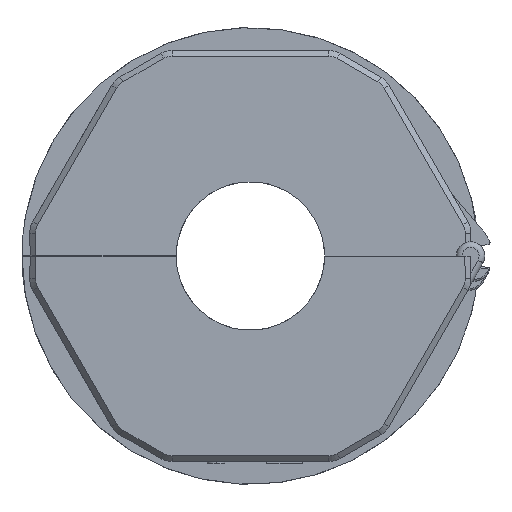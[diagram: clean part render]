
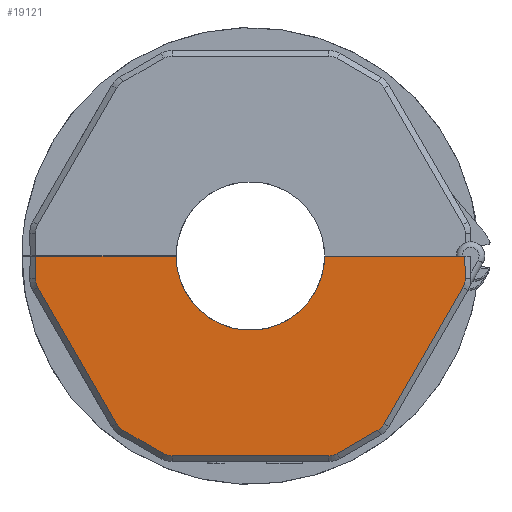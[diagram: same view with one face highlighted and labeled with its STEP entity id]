
A CAD part, left-side view. The second image highlights one B-rep face of the part: STEP entity #19121.
In plain terms, the highlighted planar face has unit normal (-1, 0, -0.009) as drawn and (1, -0.009, 0) by its records, which use the part's own axes.
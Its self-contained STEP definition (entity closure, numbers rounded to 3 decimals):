
#619=ELLIPSE('',#20527,6.5,6.5);
#2156=FACE_OUTER_BOUND('',#3241,.T.);
#3241=EDGE_LOOP('',(#15807,#15808,#15809,#15810,#15811,#15812,#15813,#15814,
#15815,#15816,#15817,#15818,#15819,#15820,#15821,#15822));
#4591=LINE('',#32096,#6459);
#4657=LINE('',#32273,#6525);
#4663=LINE('',#32303,#6531);
#4667=LINE('',#32330,#6535);
#4671=LINE('',#32357,#6539);
#4675=LINE('',#32384,#6543);
#4679=LINE('',#32411,#6547);
#4683=LINE('',#32438,#6551);
#4716=LINE('',#32520,#6584);
#6459=VECTOR('',#23653,10.);
#6525=VECTOR('',#23815,10.);
#6531=VECTOR('',#23827,10.);
#6535=VECTOR('',#23837,10.);
#6539=VECTOR('',#23847,10.);
#6543=VECTOR('',#23857,10.);
#6547=VECTOR('',#23867,10.);
#6551=VECTOR('',#23877,10.);
#6584=VECTOR('',#23954,10.);
#7603=CIRCLE('',#20467,1.5);
#7605=CIRCLE('',#20470,1.5);
#7607=CIRCLE('',#20473,1.5);
#7609=CIRCLE('',#20476,1.5);
#7611=CIRCLE('',#20479,1.5);
#7613=CIRCLE('',#20482,1.5);
#8658=VERTEX_POINT('',#32093);
#8659=VERTEX_POINT('',#32095);
#8722=VERTEX_POINT('',#32272);
#8724=VERTEX_POINT('',#32293);
#8726=VERTEX_POINT('',#32299);
#8728=VERTEX_POINT('',#32320);
#8730=VERTEX_POINT('',#32326);
#8732=VERTEX_POINT('',#32347);
#8734=VERTEX_POINT('',#32353);
#8736=VERTEX_POINT('',#32374);
#8738=VERTEX_POINT('',#32380);
#8740=VERTEX_POINT('',#32401);
#8742=VERTEX_POINT('',#32407);
#8744=VERTEX_POINT('',#32428);
#8746=VERTEX_POINT('',#32434);
#8774=VERTEX_POINT('',#32519);
#10948=EDGE_CURVE('',#8658,#8659,#4591,.T.);
#11038=EDGE_CURVE('',#8659,#8722,#4657,.T.);
#11043=EDGE_CURVE('',#8722,#8724,#7603,.T.);
#11046=EDGE_CURVE('',#8724,#8726,#4663,.T.);
#11049=EDGE_CURVE('',#8726,#8728,#7605,.T.);
#11052=EDGE_CURVE('',#8728,#8730,#4667,.T.);
#11055=EDGE_CURVE('',#8730,#8732,#7607,.T.);
#11058=EDGE_CURVE('',#8732,#8734,#4671,.T.);
#11061=EDGE_CURVE('',#8734,#8736,#7609,.T.);
#11064=EDGE_CURVE('',#8736,#8738,#4675,.T.);
#11067=EDGE_CURVE('',#8738,#8740,#7611,.T.);
#11070=EDGE_CURVE('',#8740,#8742,#4679,.T.);
#11073=EDGE_CURVE('',#8742,#8744,#7613,.T.);
#11076=EDGE_CURVE('',#8744,#8746,#4683,.T.);
#11117=EDGE_CURVE('',#8746,#8774,#4716,.T.);
#11166=EDGE_CURVE('',#8774,#8658,#619,.T.);
#15807=ORIENTED_EDGE('',*,*,#11038,.F.);
#15808=ORIENTED_EDGE('',*,*,#10948,.F.);
#15809=ORIENTED_EDGE('',*,*,#11166,.F.);
#15810=ORIENTED_EDGE('',*,*,#11117,.F.);
#15811=ORIENTED_EDGE('',*,*,#11076,.F.);
#15812=ORIENTED_EDGE('',*,*,#11073,.F.);
#15813=ORIENTED_EDGE('',*,*,#11070,.F.);
#15814=ORIENTED_EDGE('',*,*,#11067,.F.);
#15815=ORIENTED_EDGE('',*,*,#11064,.F.);
#15816=ORIENTED_EDGE('',*,*,#11061,.F.);
#15817=ORIENTED_EDGE('',*,*,#11058,.F.);
#15818=ORIENTED_EDGE('',*,*,#11055,.F.);
#15819=ORIENTED_EDGE('',*,*,#11052,.F.);
#15820=ORIENTED_EDGE('',*,*,#11049,.F.);
#15821=ORIENTED_EDGE('',*,*,#11046,.F.);
#15822=ORIENTED_EDGE('',*,*,#11043,.F.);
#18235=PLANE('',#20646);
#19121=ADVANCED_FACE('',(#2156),#18235,.T.);
#20467=AXIS2_PLACEMENT_3D('',#32297,#23821,#23822);
#20470=AXIS2_PLACEMENT_3D('',#32324,#23831,#23832);
#20473=AXIS2_PLACEMENT_3D('',#32351,#23841,#23842);
#20476=AXIS2_PLACEMENT_3D('',#32378,#23851,#23852);
#20479=AXIS2_PLACEMENT_3D('',#32405,#23861,#23862);
#20482=AXIS2_PLACEMENT_3D('',#32432,#23871,#23872);
#20527=AXIS2_PLACEMENT_3D('',#32616,#24032,#24033);
#20646=AXIS2_PLACEMENT_3D('',#33166,#24368,#24369);
#23653=DIRECTION('',(0.,0.,-1.));
#23815=DIRECTION('',(-0.009,-1.,-0.017));
#23821=DIRECTION('center_axis',(-1.,0.009,0.));
#23822=DIRECTION('ref_axis',(-0.004,-0.5,-0.866));
#23827=DIRECTION('',(-0.008,-0.866,0.5));
#23831=DIRECTION('center_axis',(-1.,0.009,0.));
#23832=DIRECTION('ref_axis',(-0.008,-0.866,-0.5));
#23837=DIRECTION('',(-0.004,-0.5,0.866));
#23841=DIRECTION('center_axis',(-1.,0.009,
0.));
#23842=DIRECTION('ref_axis',(-0.009,-1.,0.));
#23847=DIRECTION('',(0.,0.,1.));
#23851=DIRECTION('center_axis',(-1.,0.009,
0.));
#23852=DIRECTION('ref_axis',(-0.008,-0.866,0.5));
#23857=DIRECTION('',(0.004,0.5,0.866));
#23861=DIRECTION('center_axis',(-1.,0.009,
0.));
#23862=DIRECTION('ref_axis',(-0.004,-0.5,0.866));
#23867=DIRECTION('',(0.008,0.866,0.5));
#23871=DIRECTION('center_axis',(-1.,0.009,
0.));
#23872=DIRECTION('ref_axis',(0.,0.017,1.));
#23877=DIRECTION('',(0.009,1.,-0.017));
#23954=DIRECTION('',(0.,0.,-1.));
#24032=DIRECTION('center_axis',(1.,-0.009,
0.));
#24033=DIRECTION('ref_axis',(0.009,1.,0.));
#24368=DIRECTION('center_axis',(1.,-0.009,
0.));
#24369=DIRECTION('ref_axis',(0.,0.,
-1.));
#32093=CARTESIAN_POINT('',(20.3,0.,-6.5));
#32095=CARTESIAN_POINT('',(20.3,0.,-18.785));
#32096=CARTESIAN_POINT('',(20.3,0.,13.415));
#32272=CARTESIAN_POINT('',(20.283,-1.98,-18.819));
#32273=CARTESIAN_POINT('',(20.3,0.,-18.785));
#32293=CARTESIAN_POINT('',(20.276,-2.757,-18.618));
#32297=CARTESIAN_POINT('Origin',(20.282,-2.007,-17.319));
#32299=CARTESIAN_POINT('',(20.172,-14.692,-11.727));
#32303=CARTESIAN_POINT('',(20.276,-2.757,-18.618));
#32320=CARTESIAN_POINT('',(20.167,-15.241,-11.178));
#32324=CARTESIAN_POINT('Origin',(20.178,-13.942,-10.428));
#32326=CARTESIAN_POINT('',(20.149,-17.303,-7.606));
#32330=CARTESIAN_POINT('',(20.167,-15.241,-11.178));
#32347=CARTESIAN_POINT('',(20.147,-17.504,-6.856));
#32351=CARTESIAN_POINT('Origin',(20.16,-16.004,-6.856));
#32353=CARTESIAN_POINT('',(20.147,-17.504,6.856));
#32357=CARTESIAN_POINT('',(20.147,-17.504,-6.856));
#32374=CARTESIAN_POINT('',(20.149,-17.303,7.606));
#32378=CARTESIAN_POINT('Origin',(20.16,-16.004,6.856));
#32380=CARTESIAN_POINT('',(20.167,-15.241,11.178));
#32384=CARTESIAN_POINT('',(20.149,-17.303,7.606));
#32401=CARTESIAN_POINT('',(20.172,-14.692,11.727));
#32405=CARTESIAN_POINT('Origin',(20.178,-13.942,10.428));
#32407=CARTESIAN_POINT('',(20.276,-2.757,18.618));
#32411=CARTESIAN_POINT('',(20.172,-14.692,11.727));
#32428=CARTESIAN_POINT('',(20.283,-1.98,18.819));
#32432=CARTESIAN_POINT('Origin',(20.282,-2.007,17.319));
#32434=CARTESIAN_POINT('',(20.3,0.,18.785));
#32438=CARTESIAN_POINT('',(20.283,-1.98,18.819));
#32519=CARTESIAN_POINT('',(20.3,0.,6.5));
#32520=CARTESIAN_POINT('',(20.3,0.,13.415));
#32616=CARTESIAN_POINT('Origin',(20.3,0.,0.));
#33166=CARTESIAN_POINT('Origin',(20.235,-7.437,0.));
